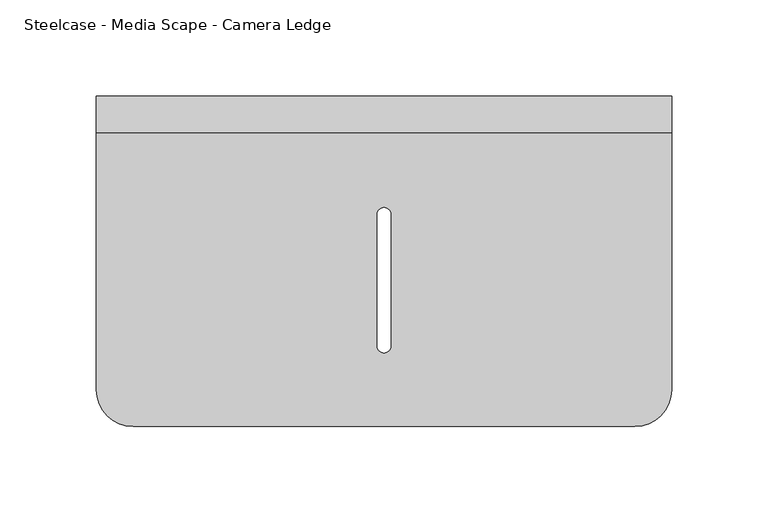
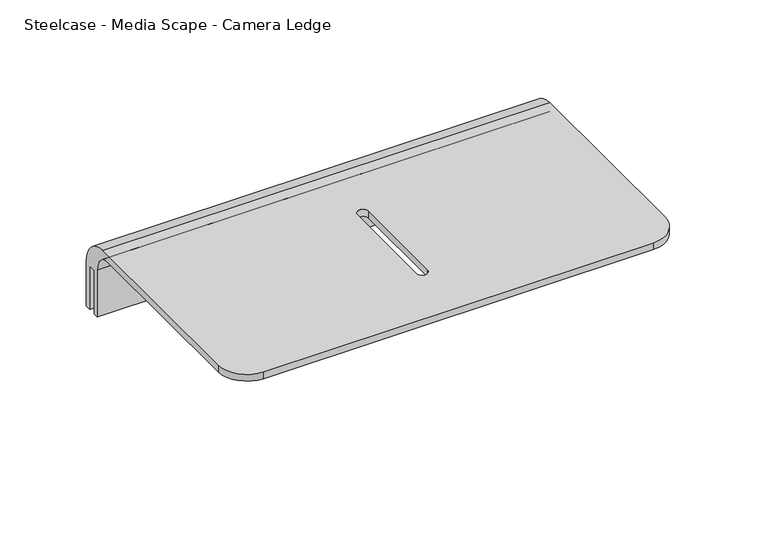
"""IFC4 building model written with IfcOpenShell, lengths in millimetres: furniture geometry, Steelcase - Media Scape - Camera Ledge : Totem Mounted."""

from ifc_helpers import new_model, si_unit, frame, origin, place, context, project, spatial, polyline, circle_curve, source, transform, mapped, element, save
from ifc_brep_helpers import plane_surface, cylinder_surface, revolved_surface, advanced_brep


def steelcase_media_scape_camera_ledge_e30b2916(model_context):
    return source(origin(), model_context, "Body", "AdvancedBrep", [
        advanced_brep(
        [(-149.225003, 43.6973974, 1453.1848), (-130.175003, 24.6473974, 1453.1848), (130.175003, 24.6473974, 1453.1848), (149.225003, 43.6973974, 1453.1848), (149.225003, 177.0473951, 1453.1848), (-149.225, 177.0473951, 1453.1848), (-3.556, 66.4091549, 1453.1848), (-3.556, 134.686339, 1453.1848), (3.556, 134.686339, 1453.1848), (3.556, 66.4091549, 1453.1848), (149.225003, 43.6973974, 1448.4096), (130.175003, 24.6473974, 1448.4096), (-130.175003, 24.6473974, 1448.4096), (-149.225003, 43.6973974, 1448.4096), (-149.225, 170.6973959, 1448.4096), (149.225003, 170.6973959, 1448.4096), (-3.556, 66.4091549, 1448.4096), (3.556, 66.4091549, 1448.4096), (3.556, 134.686339, 1448.4096), (-3.556, 134.686339, 1448.4096), (-149.225003, 196.0973951, 1434.1348457), (-149.225003, 196.0973951, 1402.3847488), (-149.225003, 192.2873942, 1402.3847488), (-149.225003, 192.2873942, 1432.8648651), (-149.225003, 187.2073945, 1432.8648651), (-149.225003, 187.2073945, 1402.3847488), (-149.225003, 183.3973959, 1402.3847488), (-149.225003, 183.3973959, 1435.7096), (149.225003, 183.3973959, 1435.7096), (149.225003, 183.3973959, 1402.3847488), (149.225003, 187.2073945, 1402.3847488), (149.225003, 187.2073945, 1432.8648651), (149.225003, 192.2873942, 1432.8648651), (149.225003, 192.2873942, 1402.3847488), (149.225003, 196.0973951, 1402.3847488), (149.225003, 196.0973951, 1434.1348457)],
        [
            (0, 1, circle_curve(frame((-130.175003, 43.6973974, 1453.1848), z_axis=(0.0, 0.0, 1.0), x_axis=(1.0, 0.0, 0.0)), 19.05)),
            (1, 2),
            (2, 3, circle_curve(frame((130.175003, 43.6973974, 1453.1848), z_axis=(0.0, 0.0, 1.0), x_axis=(1.0, 0.0, 0.0)), 19.05)),
            (3, 4),
            (4, 5),
            (5, 0),
            (6, 7),
            (7, 8, circle_curve(frame((0.0, 134.686339, 1453.1848), z_axis=(0.0, 0.0, -1.0), x_axis=(1.0, 0.0, 0.0)), 3.556)),
            (8, 9),
            (9, 6, circle_curve(frame((0.0, 66.4091549, 1453.1848), z_axis=(0.0, 0.0, -1.0), x_axis=(1.0, 0.0, 0.0)), 3.556)),
            (10, 11, circle_curve(frame((130.175003, 43.6973974, 1448.4096), z_axis=(0.0, 0.0, -1.0), x_axis=(1.0, 0.0, 0.0)), 19.05)),
            (11, 12),
            (12, 13, circle_curve(frame((-130.175003, 43.6973974, 1448.4096), z_axis=(0.0, 0.0, -1.0), x_axis=(1.0, 0.0, 0.0)), 19.05)),
            (13, 14),
            (14, 15),
            (15, 10),
            (16, 17, circle_curve(frame((0.0, 66.4091549, 1448.4096), z_axis=(0.0, 0.0, 1.0), x_axis=(1.0, 0.0, 0.0)), 3.556)),
            (17, 18),
            (18, 19, circle_curve(frame((0.0, 134.686339, 1448.4096), z_axis=(0.0, 0.0, 1.0), x_axis=(1.0, 0.0, 0.0)), 3.556)),
            (19, 16),
            (5, 20, circle_curve(frame((-149.225003, 177.0473951, 1434.1348457), z_axis=(-1.0, 0.0, 0.0), x_axis=(0.0, -1.0, 0.0)), 19.05)),
            (20, 21),
            (21, 22),
            (22, 23),
            (23, 24),
            (24, 25),
            (25, 26),
            (26, 27),
            (27, 14, circle_curve(frame((-149.225003, 170.6973959, 1435.7096), z_axis=(1.0, 0.0, 0.0), x_axis=(0.0, -1.0, 0.0)), 12.7)),
            (13, 0),
            (12, 1),
            (11, 2),
            (10, 3),
            (15, 28, circle_curve(frame((149.225003, 170.6973959, 1435.7096), z_axis=(-1.0, 0.0, 0.0), x_axis=(0.0, -1.0, 0.0)), 12.7)),
            (28, 29),
            (29, 30),
            (30, 31),
            (31, 32),
            (32, 33),
            (33, 34),
            (34, 35),
            (35, 4, circle_curve(frame((149.225003, 177.0473951, 1434.1348457), z_axis=(1.0, 0.0, 0.0), x_axis=(0.0, -1.0, 0.0)), 19.05)),
            (6, 16),
            (19, 7),
            (18, 8),
            (17, 9),
            (27, 28),
            (26, 29),
            (25, 30),
            (24, 31),
            (23, 32),
            (22, 33),
            (21, 34),
            (20, 35),
        ],
        [
            plane_surface(frame((-130.175003, 164.3473959, 1453.1848), z_axis=(0.0, 0.0, 1.0), x_axis=(-1.0, 0.0, 0.0))),
            plane_surface(frame((-130.175003, 164.3473959, 1448.4096), z_axis=(0.0, 0.0, -1.0), x_axis=(1.0, 0.0, 0.0))),
            plane_surface(frame((-149.225003, 164.3473959, 1453.1848), z_axis=(-1.0, 0.0, 0.0), x_axis=(0.0, 0.0, -1.0))),
            cylinder_surface(frame((-130.175003, 43.6973974, 1448.4096), z_axis=(0.0, 0.0, 1.0), x_axis=(1.0, 0.0, 0.0)), 19.05),
            plane_surface(frame((-130.175003, 24.6473974, 1453.1848), z_axis=(0.0, -1.0, 0.0), x_axis=(0.0, 0.0, -1.0))),
            cylinder_surface(frame((130.175003, 43.6973974, 1448.4096), z_axis=(0.0, 0.0, 1.0), x_axis=(1.0, 0.0, 0.0)), 19.05),
            plane_surface(frame((149.225003, 43.6973974, 1453.1848), z_axis=(1.0, 0.0, 0.0), x_axis=(0.0, 0.0, -1.0))),
            plane_surface(frame((-3.556, 66.4091549, 1453.1848), z_axis=(1.0, 0.0, 0.0), x_axis=(0.0, 0.0, -1.0))),
            revolved_surface(polyline([(3.556, 134.686339, 1448.4096), (3.556, 134.686339, 1453.1848)]), (0.0, 134.686339, 0.0), (0.0, 0.0, -1.0)),
            plane_surface(frame((3.556, 134.686339, 1453.1848), z_axis=(-1.0, 0.0, 0.0), x_axis=(0.0, 0.0, -1.0))),
            revolved_surface(polyline([(3.556, 66.4091549, 1448.4096), (3.556, 66.4091549, 1453.1848)]), (0.0, 66.4091549, 0.0), (0.0, 0.0, -1.0)),
            revolved_surface(polyline([(-149.225003, 157.99739590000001, 1435.7096), (149.225003, 157.99739590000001, 1435.7096)]), (-149.225, 170.6973959, 1435.7096), (-1.0, 0.0, 0.0)),
            plane_surface(frame((149.225003, 183.3973959, 1435.7096), z_axis=(0.0, -1.0, 0.0), x_axis=(-1.0, 0.0, 0.0))),
            plane_surface(frame((149.225003, 183.3973959, 1402.3847488), z_axis=(0.0, 0.0, -1.0), x_axis=(-1.0, 0.0, 0.0))),
            plane_surface(frame((149.225003, 187.2073945, 1402.3847488), z_axis=(0.0, 1.0, 0.0), x_axis=(-1.0, 0.0, 0.0))),
            plane_surface(frame((149.225003, 187.2073945, 1432.8648651), z_axis=(0.0, 0.0, -1.0), x_axis=(-1.0, 0.0, 0.0))),
            plane_surface(frame((149.225003, 192.2873942, 1432.8648651), z_axis=(0.0, -1.0, 0.0), x_axis=(-1.0, 0.0, 0.0))),
            plane_surface(frame((149.225003, 192.2873942, 1402.3847488), z_axis=(0.0, 0.0, -1.0), x_axis=(-1.0, 0.0, 0.0))),
            plane_surface(frame((149.225003, 196.0973951, 1402.3847488), z_axis=(0.0, 1.0, 0.0), x_axis=(-1.0, 0.0, 0.0))),
            cylinder_surface(frame((-149.225, 177.0473951, 1434.1348457), z_axis=(1.0, 0.0, 0.0), x_axis=(0.0, -1.0, 0.0)), 19.05),
        ],
        [
            (0, [[1, 2, 3, 4, 5, 6], [7, 8, 9, 10]]),
            (1, [[11, 12, 13, 14, 15, 16], [17, 18, 19, 20]]),
            (2, [[-6, 21, 22, 23, 24, 25, 26, 27, 28, 29, -14, 30]]),
            (3, [[-1, -30, -13, 31]]),
            (4, [[-2, -31, -12, 32]]),
            (5, [[-3, -32, -11, 33]]),
            (6, [[-4, -33, -16, 34, 35, 36, 37, 38, 39, 40, 41, 42]]),
            (7, [[-7, 43, -20, 44]]),
            (8, [[-8, -44, -19, 45]]),
            (9, [[-9, -45, -18, 46]]),
            (10, [[-10, -46, -17, -43]]),
            (11, [[-34, -15, -29, 47]]),
            (12, [[-35, -47, -28, 48]]),
            (13, [[-36, -48, -27, 49]]),
            (14, [[-37, -49, -26, 50]]),
            (15, [[-38, -50, -25, 51]]),
            (16, [[-39, -51, -24, 52]]),
            (17, [[-40, -52, -23, 53]]),
            (18, [[-41, -53, -22, 54]]),
            (19, [[-42, -54, -21, -5]]),
        ],
    ),
    ])


if __name__ == "__main__":
    model = new_model("IFC4")
    model_context = context("Model", 3, world=origin())
    ifc_project = project(units=[si_unit("LENGTHUNIT", "METRE", prefix="MILLI")], contexts=[model_context])
    site = spatial("IfcSite", under=ifc_project)
    building = spatial("IfcBuilding", under=site)
    placement = place(None, origin())
    steelcase_media_scape_camera_ledge_shape = steelcase_media_scape_camera_ledge_e30b2916(model_context)
    element("IfcFurniture", 1, ObjectType="Steelcase - Media Scape - Camera Ledge : Totem Mounted", at=placement, inside=building, context=model_context, shape_type="MappedRepresentation", body=[
        mapped(steelcase_media_scape_camera_ledge_shape, transform((0.0, 0.0, 0.0), x_axis=(1.0, 0.0, 0.0), y_axis=(0.0, 1.0, 0.0), z_axis=(0.0, 0.0, 1.0))),
    ])
    save(model, "model.ifc")
